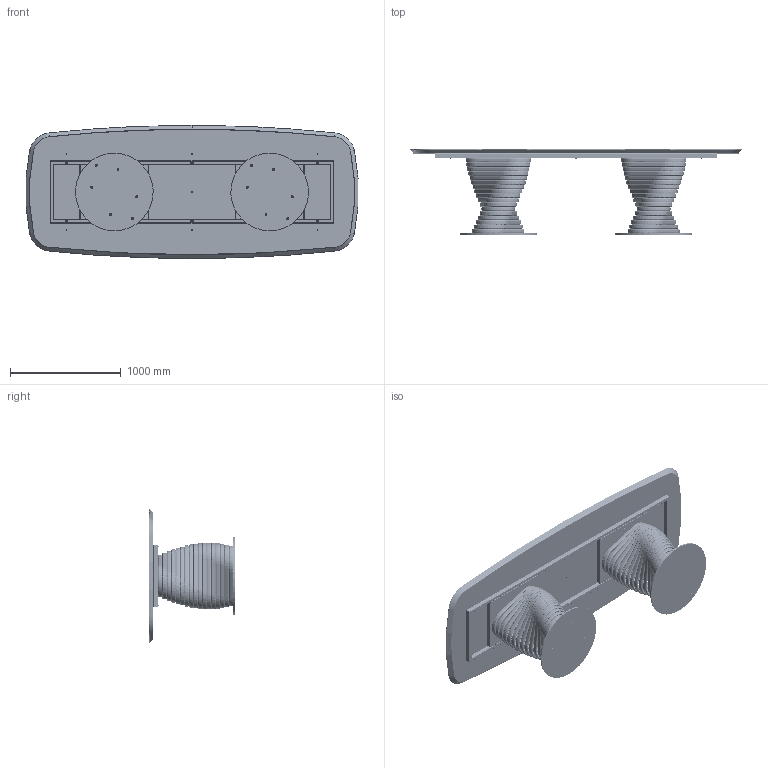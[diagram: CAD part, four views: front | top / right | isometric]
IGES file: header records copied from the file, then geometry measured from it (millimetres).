
Start section: SolidWorks IGES file using analytic representation for surfaces
Global section: file name: Y:\eforma\TECNICO\SOLIDWORKS\E-FORMA\1-TAVOLI\ROTOLO\02 parts\RO44W.IGS; native system: SolidWorks 2022; preprocessor: SolidWorks 2022; author: eforma.tech; date: 240807.152116; units: millimetre
Bounding box: 2991.72 x 770 x 1200 mm (x, y, z)
Volume: 146514561 mm3; surface area: 21405636.1 mm2
Topology: 182 solids, 182 shells, 3111 faces, 7322 edges, 4504 vertices
Faces by surface type: revolution 1881, plane 1230
